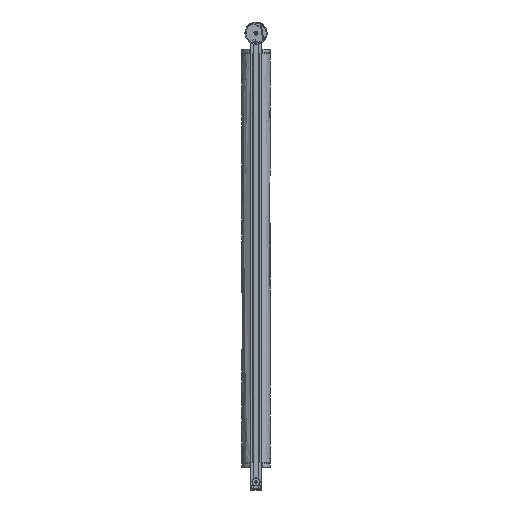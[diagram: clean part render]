
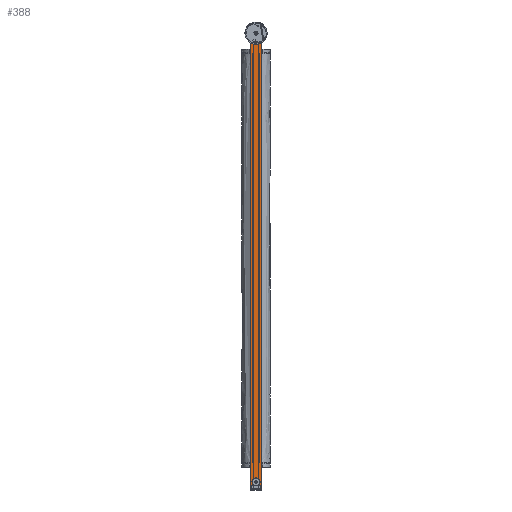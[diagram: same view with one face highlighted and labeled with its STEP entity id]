
A CAD part, top view. The second image highlights one B-rep face of the part: STEP entity #388.
In plain terms, the highlighted planar face has unit normal (0, 0, 1).
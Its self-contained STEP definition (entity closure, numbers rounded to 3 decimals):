
#72=FACE_BOUND('',#1776,.T.);
#73=FACE_BOUND('',#1777,.T.);
#388=ADVANCED_FACE('',(#1079,#72,#73),#10847,.T.);
#1079=FACE_OUTER_BOUND('',#1775,.T.);
#1775=EDGE_LOOP('',(#3363,#3364,#3365,#3366,#3367,#3368,#3369,#3370,#3371,
#3372,#3373,#3374));
#1776=EDGE_LOOP('',(#3375,#3376));
#1777=EDGE_LOOP('',(#3377,#3378));
#3363=ORIENTED_EDGE('',*,*,#6487,.F.);
#3364=ORIENTED_EDGE('',*,*,#6715,.F.);
#3365=ORIENTED_EDGE('',*,*,#6701,.F.);
#3366=ORIENTED_EDGE('',*,*,#6488,.F.);
#3367=ORIENTED_EDGE('',*,*,#6654,.F.);
#3368=ORIENTED_EDGE('',*,*,#6666,.F.);
#3369=ORIENTED_EDGE('',*,*,#6489,.F.);
#3370=ORIENTED_EDGE('',*,*,#6664,.F.);
#3371=ORIENTED_EDGE('',*,*,#6659,.F.);
#3372=ORIENTED_EDGE('',*,*,#6490,.F.);
#3373=ORIENTED_EDGE('',*,*,#6707,.F.);
#3374=ORIENTED_EDGE('',*,*,#6713,.F.);
#3375=ORIENTED_EDGE('',*,*,#6353,.T.);
#3376=ORIENTED_EDGE('',*,*,#6747,.F.);
#3377=ORIENTED_EDGE('',*,*,#6722,.F.);
#3378=ORIENTED_EDGE('',*,*,#6365,.T.);
#6353=EDGE_CURVE('',#9850,#9849,#8949,.T.);
#6365=EDGE_CURVE('',#9862,#9861,#8955,.T.);
#6487=EDGE_CURVE('',#10065,#10066,#8165,.T.);
#6488=EDGE_CURVE('',#10004,#9883,#8166,.T.);
#6489=EDGE_CURVE('',#10070,#10069,#8167,.T.);
#6490=EDGE_CURVE('',#9902,#9987,#8168,.T.);
#6654=EDGE_CURVE('',#10068,#10004,#8281,.T.);
#6659=EDGE_CURVE('',#9987,#10071,#8285,.T.);
#6664=EDGE_CURVE('',#10071,#10070,#9039,.T.);
#6666=EDGE_CURVE('',#10069,#10068,#9041,.T.);
#6701=EDGE_CURVE('',#9883,#10067,#8314,.T.);
#6707=EDGE_CURVE('',#10072,#9902,#8319,.T.);
#6713=EDGE_CURVE('',#10066,#10072,#9053,.T.);
#6715=EDGE_CURVE('',#10067,#10065,#9055,.T.);
#6722=EDGE_CURVE('',#9862,#9861,#9059,.T.);
#6747=EDGE_CURVE('',#9850,#9849,#9077,.T.);
#8165=B_SPLINE_CURVE_WITH_KNOTS('',1,(#17326,#17327),.UNSPECIFIED.,.F.,
 .F.,(2,2),(-15.837,0.),.UNSPECIFIED.);
#8166=B_SPLINE_CURVE_WITH_KNOTS('',1,(#17328,#17329),.UNSPECIFIED.,.F.,
 .F.,(2,2),(-1150.,0.),.UNSPECIFIED.);
#8167=B_SPLINE_CURVE_WITH_KNOTS('',1,(#17330,#17331),.UNSPECIFIED.,.F.,
 .F.,(2,2),(-15.837,0.),.UNSPECIFIED.);
#8168=B_SPLINE_CURVE_WITH_KNOTS('',1,(#17332,#17333),.UNSPECIFIED.,.F.,
 .F.,(2,2),(-1150.,0.),.UNSPECIFIED.);
#8281=B_SPLINE_CURVE_WITH_KNOTS('',1,(#17797,#17798),.UNSPECIFIED.,.F.,
 .F.,(2,2),(0.,8.717),.UNSPECIFIED.);
#8285=B_SPLINE_CURVE_WITH_KNOTS('',1,(#17809,#17810),.UNSPECIFIED.,.F.,
 .F.,(2,2),(0.,8.717),.UNSPECIFIED.);
#8314=B_SPLINE_CURVE_WITH_KNOTS('',1,(#17937,#17938),.UNSPECIFIED.,.F.,
 .F.,(2,2),(0.,8.717),.UNSPECIFIED.);
#8319=B_SPLINE_CURVE_WITH_KNOTS('',1,(#17951,#17952),.UNSPECIFIED.,.F.,
 .F.,(2,2),(0.,8.717),.UNSPECIFIED.);
#8949=(
BOUNDED_CURVE()
B_SPLINE_CURVE(2,(#16978,#16979,#16980,#16981,#16982),.UNSPECIFIED.,.F.,
 .F.)
B_SPLINE_CURVE_WITH_KNOTS((3,2,3),(-5.498,-2.749,
0.),.UNSPECIFIED.)
CURVE()
GEOMETRIC_REPRESENTATION_ITEM()
RATIONAL_B_SPLINE_CURVE((1.,0.707,1.,0.707,1.))
REPRESENTATION_ITEM('')
);
#8955=(
BOUNDED_CURVE()
B_SPLINE_CURVE(2,(#17020,#17021,#17022,#17023,#17024),.UNSPECIFIED.,.F.,
 .F.)
B_SPLINE_CURVE_WITH_KNOTS((3,2,3),(-5.498,-2.749,
0.),.UNSPECIFIED.)
CURVE()
GEOMETRIC_REPRESENTATION_ITEM()
RATIONAL_B_SPLINE_CURVE((1.,0.707,1.,0.707,1.))
REPRESENTATION_ITEM('')
);
#9039=(
BOUNDED_CURVE()
B_SPLINE_CURVE(2,(#17822,#17823,#17824),.UNSPECIFIED.,.F.,.F.)
B_SPLINE_CURVE_WITH_KNOTS((3,3),(0.,4.146),.UNSPECIFIED.)
CURVE()
GEOMETRIC_REPRESENTATION_ITEM()
RATIONAL_B_SPLINE_CURVE((1.,0.771,1.))
REPRESENTATION_ITEM('')
);
#9041=(
BOUNDED_CURVE()
B_SPLINE_CURVE(2,(#17828,#17829,#17830),.UNSPECIFIED.,.F.,.F.)
B_SPLINE_CURVE_WITH_KNOTS((3,3),(0.,4.146),.UNSPECIFIED.)
CURVE()
GEOMETRIC_REPRESENTATION_ITEM()
RATIONAL_B_SPLINE_CURVE((1.,0.771,1.))
REPRESENTATION_ITEM('')
);
#9053=(
BOUNDED_CURVE()
B_SPLINE_CURVE(2,(#17966,#17967,#17968),.UNSPECIFIED.,.F.,.F.)
B_SPLINE_CURVE_WITH_KNOTS((3,3),(0.,4.146),.UNSPECIFIED.)
CURVE()
GEOMETRIC_REPRESENTATION_ITEM()
RATIONAL_B_SPLINE_CURVE((1.,0.771,1.))
REPRESENTATION_ITEM('')
);
#9055=(
BOUNDED_CURVE()
B_SPLINE_CURVE(2,(#17972,#17973,#17974),.UNSPECIFIED.,.F.,.F.)
B_SPLINE_CURVE_WITH_KNOTS((3,3),(0.,4.146),.UNSPECIFIED.)
CURVE()
GEOMETRIC_REPRESENTATION_ITEM()
RATIONAL_B_SPLINE_CURVE((1.,0.771,1.))
REPRESENTATION_ITEM('')
);
#9059=(
BOUNDED_CURVE()
B_SPLINE_CURVE(2,(#18002,#18003,#18004,#18005,#18006),.UNSPECIFIED.,.F.,
 .F.)
B_SPLINE_CURVE_WITH_KNOTS((3,2,3),(0.,2.749,5.498),
 .UNSPECIFIED.)
CURVE()
GEOMETRIC_REPRESENTATION_ITEM()
RATIONAL_B_SPLINE_CURVE((1.,0.707,1.,0.707,1.))
REPRESENTATION_ITEM('')
);
#9077=(
BOUNDED_CURVE()
B_SPLINE_CURVE(2,(#18102,#18103,#18104,#18105,#18106),.UNSPECIFIED.,.F.,
 .F.)
B_SPLINE_CURVE_WITH_KNOTS((3,2,3),(0.,2.749,5.498),
 .UNSPECIFIED.)
CURVE()
GEOMETRIC_REPRESENTATION_ITEM()
RATIONAL_B_SPLINE_CURVE((1.,0.707,1.,0.707,1.))
REPRESENTATION_ITEM('')
);
#9849=VERTEX_POINT('',#16563);
#9850=VERTEX_POINT('',#16564);
#9861=VERTEX_POINT('',#16575);
#9862=VERTEX_POINT('',#16576);
#9883=VERTEX_POINT('',#16597);
#9902=VERTEX_POINT('',#16616);
#9987=VERTEX_POINT('',#16701);
#10004=VERTEX_POINT('',#16718);
#10065=VERTEX_POINT('',#16779);
#10066=VERTEX_POINT('',#16780);
#10067=VERTEX_POINT('',#16781);
#10068=VERTEX_POINT('',#16782);
#10069=VERTEX_POINT('',#16783);
#10070=VERTEX_POINT('',#16784);
#10071=VERTEX_POINT('',#16785);
#10072=VERTEX_POINT('',#16786);
#10847=PLANE('',#11715);
#11715=AXIS2_PLACEMENT_3D('',#15012,#12007,$);
#12007=DIRECTION('',(0.,0.,1.));
#15012=CARTESIAN_POINT('',(-15.,1113.006,149.494));
#16563=CARTESIAN_POINT('',(1.75,-134.794,149.494));
#16564=CARTESIAN_POINT('',(-1.75,-134.794,149.494));
#16575=CARTESIAN_POINT('',(1.75,980.806,149.494));
#16576=CARTESIAN_POINT('',(-1.75,980.806,149.494));
#16597=CARTESIAN_POINT('',(-12.5,998.006,149.494));
#16616=CARTESIAN_POINT('',(12.5,998.006,149.494));
#16701=CARTESIAN_POINT('',(12.5,-151.994,149.494));
#16718=CARTESIAN_POINT('',(-12.5,-151.994,149.494));
#16779=CARTESIAN_POINT('',(-7.919,987.006,149.494));
#16780=CARTESIAN_POINT('',(7.919,987.006,149.494));
#16781=CARTESIAN_POINT('',(-10.865,989.443,149.494));
#16782=CARTESIAN_POINT('',(-10.865,-143.432,149.494));
#16783=CARTESIAN_POINT('',(-7.919,-140.994,149.494));
#16784=CARTESIAN_POINT('',(7.919,-140.994,149.494));
#16785=CARTESIAN_POINT('',(10.865,-143.432,149.494));
#16786=CARTESIAN_POINT('',(10.865,989.443,149.494));
#16978=CARTESIAN_POINT('',(-1.75,-134.794,149.494));
#16979=CARTESIAN_POINT('',(-1.75,-133.044,149.494));
#16980=CARTESIAN_POINT('',(0.,-133.044,149.494));
#16981=CARTESIAN_POINT('',(1.75,-133.044,149.494));
#16982=CARTESIAN_POINT('',(1.75,-134.794,149.494));
#17020=CARTESIAN_POINT('',(-1.75,980.806,149.494));
#17021=CARTESIAN_POINT('',(-1.75,982.556,149.494));
#17022=CARTESIAN_POINT('',(0.,982.556,149.494));
#17023=CARTESIAN_POINT('',(1.75,982.556,149.494));
#17024=CARTESIAN_POINT('',(1.75,980.806,149.494));
#17326=CARTESIAN_POINT('',(-7.919,987.006,149.494));
#17327=CARTESIAN_POINT('',(7.919,987.006,149.494));
#17328=CARTESIAN_POINT('',(-12.5,-151.994,149.494));
#17329=CARTESIAN_POINT('',(-12.5,998.006,149.494));
#17330=CARTESIAN_POINT('',(7.919,-140.994,149.494));
#17331=CARTESIAN_POINT('',(-7.919,-140.994,149.494));
#17332=CARTESIAN_POINT('',(12.5,998.006,149.494));
#17333=CARTESIAN_POINT('',(12.5,-151.994,149.494));
#17797=CARTESIAN_POINT('',(-10.865,-143.432,149.494));
#17798=CARTESIAN_POINT('',(-12.5,-151.994,149.494));
#17809=CARTESIAN_POINT('',(12.5,-151.994,149.494));
#17810=CARTESIAN_POINT('',(10.865,-143.432,149.494));
#17822=CARTESIAN_POINT('',(10.865,-143.432,149.494));
#17823=CARTESIAN_POINT('',(10.4,-140.994,149.494));
#17824=CARTESIAN_POINT('',(7.919,-140.994,149.494));
#17828=CARTESIAN_POINT('',(-7.919,-140.994,149.494));
#17829=CARTESIAN_POINT('',(-10.4,-140.994,149.494));
#17830=CARTESIAN_POINT('',(-10.865,-143.432,149.494));
#17937=CARTESIAN_POINT('',(-12.5,998.006,149.494));
#17938=CARTESIAN_POINT('',(-10.865,989.443,149.494));
#17951=CARTESIAN_POINT('',(10.865,989.443,149.494));
#17952=CARTESIAN_POINT('',(12.5,998.006,149.494));
#17966=CARTESIAN_POINT('',(7.919,987.006,149.494));
#17967=CARTESIAN_POINT('',(10.4,987.006,149.494));
#17968=CARTESIAN_POINT('',(10.865,989.443,149.494));
#17972=CARTESIAN_POINT('',(-10.865,989.443,149.494));
#17973=CARTESIAN_POINT('',(-10.4,987.006,149.494));
#17974=CARTESIAN_POINT('',(-7.919,987.006,149.494));
#18002=CARTESIAN_POINT('',(-1.75,980.806,149.494));
#18003=CARTESIAN_POINT('',(-1.75,979.056,149.494));
#18004=CARTESIAN_POINT('',(0.,979.056,149.494));
#18005=CARTESIAN_POINT('',(1.75,979.056,149.494));
#18006=CARTESIAN_POINT('',(1.75,980.806,149.494));
#18102=CARTESIAN_POINT('',(-1.75,-134.794,149.494));
#18103=CARTESIAN_POINT('',(-1.75,-136.544,149.494));
#18104=CARTESIAN_POINT('',(0.,-136.544,149.494));
#18105=CARTESIAN_POINT('',(1.75,-136.544,149.494));
#18106=CARTESIAN_POINT('',(1.75,-134.794,149.494));
